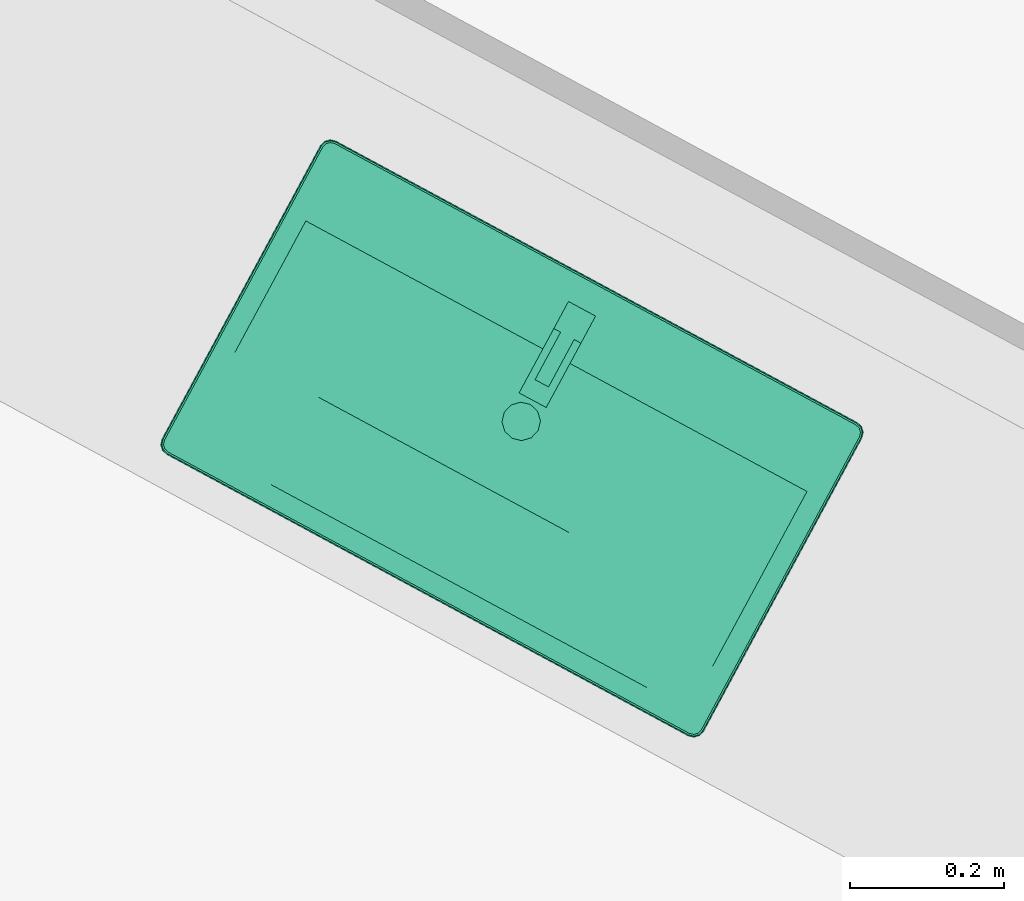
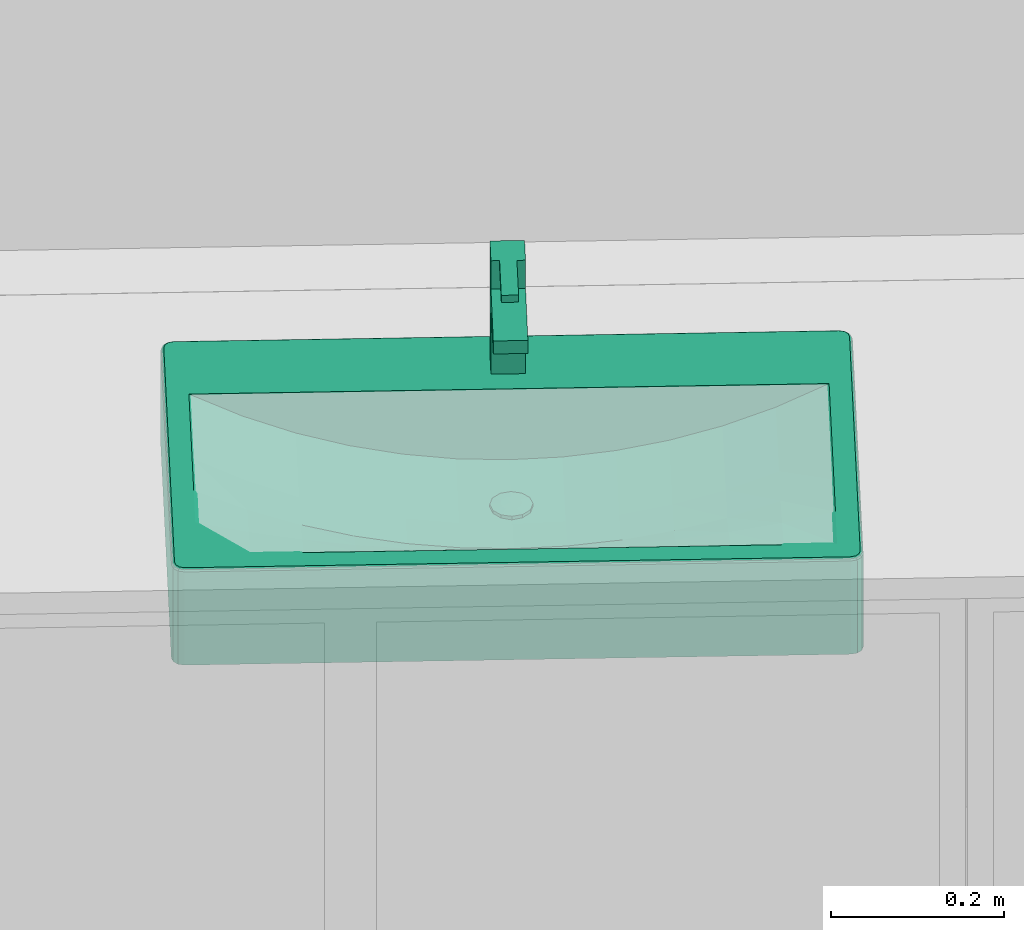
# One storey, part 18 of 41: 1 flow terminal.
"""IFC2X3 building model written with IfcOpenShell, lengths in metres."""

from ifc_helpers import new_model, entity, si_unit, converted_unit, derived_unit, money_unit, direction, frame, origin_with_axes, place, context, subcontext, project, spatial, open_shell, faceted_brep, surface_model, type_object, element, save


model = new_model("IFC2X3")

# Units and contexts
model_context = context("Model", 3, precision=1e-05, world=origin_with_axes(), true_north=direction((0.0, 1.0)))
body_context = subcontext(model_context, "Body", "Model", "MODEL_VIEW")
ifc_project = project(units=[si_unit("LENGTHUNIT", "METRE"), si_unit("AREAUNIT", "SQUARE_METRE"), si_unit("VOLUMEUNIT", "CUBIC_METRE"), converted_unit("PLANEANGLEUNIT", "DEGREE", entity("IfcPlaneAngleMeasure", 0.0174532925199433), si_unit("PLANEANGLEUNIT", "RADIAN"), dimensions=[0, 0, 0, 0, 0, 0, 0]), money_unit("EUR"), converted_unit("TIMEUNIT", "Year", entity("IfcTimeMeasure", 31556926.0), si_unit("TIMEUNIT", "SECOND"), dimensions=[0, 0, 1, 0, 0, 0, 0]), si_unit("MASSUNIT", "GRAM", prefix="KILO"), si_unit("THERMODYNAMICTEMPERATUREUNIT", "DEGREE_CELSIUS"), si_unit("LUMINOUSINTENSITYUNIT", "LUMEN"), si_unit("ENERGYUNIT", "JOULE", prefix="MEGA"), derived_unit("THERMALCONDUCTANCEUNIT", [(si_unit("POWERUNIT", "WATT"), 1), (si_unit("LENGTHUNIT", "METRE"), -1), (si_unit("THERMODYNAMICTEMPERATUREUNIT", "KELVIN"), -1)]), derived_unit("SPECIFICHEATCAPACITYUNIT", [(si_unit("ENERGYUNIT", "JOULE"), 1), (si_unit("MASSUNIT", "GRAM", prefix="KILO"), -1), (si_unit("THERMODYNAMICTEMPERATUREUNIT", "KELVIN"), -1)]), derived_unit("MASSDENSITYUNIT", [(si_unit("MASSUNIT", "GRAM", prefix="KILO"), 1), (si_unit("VOLUMEUNIT", "CUBIC_METRE"), -1)])], contexts=[model_context])

# Site, building, storey
site_placement = place(None, frame((-3.949935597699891, 1.740105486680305, 0.0), z_axis=(0.0, 0.0, 1.0), x_axis=(0.8799804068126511, -0.475009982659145, 0.0)))
site = spatial("IfcSite", under=ifc_project, at=site_placement, Name="Gelände", CompositionType="ELEMENT")
building_placement = place(site_placement, origin_with_axes())
building = spatial("IfcBuilding", under=site, at=building_placement, Name="Gebäude", CompositionType="ELEMENT")
storey_placement = place(building_placement, frame((0.0, 0.0, 4.55), z_axis=(0.0, 0.0, 1.0), x_axis=(1.0, 0.0, 0.0)))
storey = spatial("IfcBuildingStorey", under=building, at=storey_placement, Name="Staffelgeschoss", CompositionType="ELEMENT", Elevation=4.55)

# Flow terminal
sanitary_terminal_type = type_object("IfcSanitaryTerminalType", Name="Waschbecken 1 22", PredefinedType="NOTDEFINED")
flow_terminal_placement = place(storey_placement, frame((22.421146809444, 4.431900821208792, 0.0), z_axis=(0.0, 0.0, 1.0), x_axis=(1.0, 0.0, 0.0)))
element("IfcFlowTerminal", 1, at=flow_terminal_placement, inside=storey, type_object=sanitary_terminal_type, Name="Objekt-0061", context=body_context, shape_type="SurfaceModel", body=[
    faceted_brep([(-0.385, -0.4629798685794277, 0.715), (-0.3925, -0.4609702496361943, 0.715), (-0.3979903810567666, -0.4554798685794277, 0.715), (-0.4, -0.4479798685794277, 0.715), (-0.4, -0.01500000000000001, 0.715), (-0.3979903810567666, -0.007500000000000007, 0.715), (-0.3925, -0.002009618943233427, 0.715), (-0.385, 0.0, 0.715), (0.385, 0.0, 0.715), (0.3925, -0.002009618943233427, 0.715), (0.3979903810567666, -0.007500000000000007, 0.715), (0.4, -0.01500000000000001, 0.715), (0.4, -0.4479798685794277, 0.715), (0.3979903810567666, -0.4554798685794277, 0.715), (0.3925, -0.4609702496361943, 0.715), (0.385, -0.4629798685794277, 0.715), (0.37, -0.4329798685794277, 0.715), (0.37, -0.11, 0.715), (-0.37, -0.11, 0.715), (-0.37, -0.4329798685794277, 0.715), (-0.3849999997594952, -0.4629798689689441, 0.845), (-0.3925000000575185, -0.4609702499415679, 0.845), (-0.3979903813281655, -0.4554798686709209, 0.845), (-0.4000000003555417, -0.4479798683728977, 0.845), (-0.4000000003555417, -0.01499999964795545, 0.845), (-0.3979903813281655, -0.007500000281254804, 0.845), (-0.3925000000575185, -0.002009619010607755, 0.845), (-0.3849999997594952, 0.0, 0.845), (0.3849999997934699, 0.0, 0.845), (0.3925000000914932, -0.002009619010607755, 0.845), (0.3979903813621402, -0.007500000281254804, 0.845), (0.4000000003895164, -0.01499999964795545, 0.845), (0.4000000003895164, -0.4479798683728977, 0.845), (0.3979903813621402, -0.4554798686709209, 0.845), (0.3925000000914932, -0.4609702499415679, 0.845), (0.3849999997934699, -0.4629798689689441, 0.845), (0.37, -0.11, 0.84999999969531), (0.37, -0.4329798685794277, 0.84999999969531), (-0.37, -0.11, 0.84999999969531), (-0.37, -0.4329798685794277, 0.84999999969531), (-0.3849775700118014, -0.4628094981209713, 0.8462940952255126), (-0.3924118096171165, -0.4608174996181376, 0.8462940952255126), (-0.3978376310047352, -0.4553916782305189, 0.8462940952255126), (-0.3998296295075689, -0.4479574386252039, 0.8462940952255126), (-0.3998296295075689, -0.01502242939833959, 0.8462940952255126), (-0.3978376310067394, -0.007588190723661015, 0.8462940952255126), (-0.3924118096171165, -0.002162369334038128, 0.8462940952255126), (-0.3849775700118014, -0.0001703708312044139, 0.8462940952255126), (0.3849775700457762, -0.0001703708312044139, 0.8462940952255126), (0.3924118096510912, -0.002162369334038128, 0.8462940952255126), (0.3978376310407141, -0.007588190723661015, 0.8462940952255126), (0.3998296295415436, -0.01502242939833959, 0.8462940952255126), (0.3998296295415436, -0.4479574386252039, 0.8462940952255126), (0.3978376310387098, -0.4553916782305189, 0.8462940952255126), (0.3924118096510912, -0.4608174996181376, 0.8462940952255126), (0.3849775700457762, -0.4628094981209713, 0.8462940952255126), (0.3843417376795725, -0.004999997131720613, 0.84999999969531), (-0.3843417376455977, -0.004999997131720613, 0.84999999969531), (-0.3899118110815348, -0.006492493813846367, 0.84999999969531), (-0.3935075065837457, -0.01008818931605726, 0.84999999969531), (-0.3950000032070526, -0.01565826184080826, 0.84999999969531), (-0.3950000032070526, -0.4473216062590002, 0.84999999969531), (-0.3935075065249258, -0.4528916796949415, 0.84999999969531), (-0.3899118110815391, -0.4564873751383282, 0.84999999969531), (-0.3843417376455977, -0.4579798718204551, 0.84999999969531), (0.3843417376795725, -0.4579798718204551, 0.84999999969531), (0.3899118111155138, -0.4564873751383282, 0.84999999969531), (0.3935075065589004, -0.4528916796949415, 0.84999999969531), (0.3950000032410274, -0.4473216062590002, 0.84999999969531), (0.3950000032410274, -0.01565826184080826, 0.84999999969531), (0.3935075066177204, -0.01008818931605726, 0.84999999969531), (0.3899118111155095, -0.006492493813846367, 0.84999999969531), (-0.3848071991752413, -0.4615154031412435, 0.8485355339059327), (-0.3917419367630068, -0.4596572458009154, 0.8485355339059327), (-0.396677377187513, -0.4547218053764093, 0.8485355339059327), (-0.398535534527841, -0.4477870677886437, 0.8485355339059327), (-0.398535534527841, -0.01519280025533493, 0.8485355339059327), (-0.3966773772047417, -0.00825806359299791, 0.8485355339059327), (-0.391741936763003, -0.003322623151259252, 0.8485355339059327), (-0.3848071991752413, -0.001464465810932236, 0.8485355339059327), (0.384807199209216, -0.001464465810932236, 0.8485355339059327), (0.3917419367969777, -0.003322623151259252, 0.8485355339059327), (0.3966773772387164, -0.00825806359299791, 0.8485355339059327), (0.3985355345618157, -0.01519280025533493, 0.8485355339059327), (0.3985355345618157, -0.4477870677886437, 0.8485355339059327), (0.3966773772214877, -0.4547218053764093, 0.8485355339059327), (0.3917419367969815, -0.4596572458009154, 0.8485355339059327), (0.384807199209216, -0.4615154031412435, 0.8485355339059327), (0.3845121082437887, -0.003705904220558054, 0.8498296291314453), (-0.3845121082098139, -0.003705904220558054, 0.8498296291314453), (-0.3905816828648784, -0.005332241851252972, 0.8498296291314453), (-0.3946677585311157, -0.009418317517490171, 0.8498296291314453), (-0.3962940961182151, -0.01548789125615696, 0.8498296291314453), (-0.3962940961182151, -0.4474919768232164, 0.8498296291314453), (-0.3946677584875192, -0.453561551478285, 0.8498296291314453), (-0.3905816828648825, -0.4576476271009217, 0.8498296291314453), (-0.3845121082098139, -0.4592739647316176, 0.8498296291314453), (0.3845121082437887, -0.4592739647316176, 0.8498296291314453), (0.3905816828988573, -0.4576476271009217, 0.8498296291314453), (0.3946677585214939, -0.453561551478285, 0.8498296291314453), (0.3962940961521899, -0.4474919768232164, 0.8498296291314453), (0.3962940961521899, -0.01548789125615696, 0.8498296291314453), (0.3946677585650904, -0.009418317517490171, 0.8498296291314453), (0.3905816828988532, -0.005332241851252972, 0.8498296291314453)], [[[0, 1, 2, 3, 4, 5, 6, 7, 8, 9, 10, 11, 12, 13, 14, 15], [16, 17, 18, 19]], [[1, 0, 20, 21]], [[2, 1, 21, 22]], [[3, 2, 22, 23]], [[4, 3, 23, 24]], [[5, 4, 24, 25]], [[6, 5, 25, 26]], [[7, 6, 26, 27]], [[8, 7, 27, 28]], [[9, 8, 28, 29]], [[10, 9, 29, 30]], [[11, 10, 30, 31]], [[12, 11, 31, 32]], [[13, 12, 32, 33]], [[14, 13, 33, 34]], [[15, 14, 34, 35]], [[0, 15, 35, 20]], [[36, 17, 16, 37]], [[38, 18, 17, 36]], [[39, 19, 18, 38]], [[37, 16, 19, 39]], [[21, 20, 40, 41]], [[22, 21, 41, 42]], [[23, 22, 42, 43]], [[24, 23, 43, 44]], [[25, 24, 44, 45]], [[26, 25, 45, 46]], [[27, 26, 46, 47]], [[28, 27, 47, 48]], [[29, 28, 48, 49]], [[30, 29, 49, 50]], [[31, 30, 50, 51]], [[32, 31, 51, 52]], [[33, 32, 52, 53]], [[34, 33, 53, 54]], [[35, 34, 54, 55]], [[20, 35, 55, 40]], [[56, 57, 58, 59, 60, 61, 62, 63, 64, 65, 66, 67, 68, 69, 70, 71], [37, 39, 38, 36]], [[41, 40, 72, 73]], [[42, 41, 73, 74]], [[43, 42, 74, 75]], [[44, 43, 75, 76]], [[45, 44, 76, 77]], [[46, 45, 77, 78]], [[47, 46, 78, 79]], [[48, 47, 79, 80]], [[49, 48, 80, 81]], [[50, 49, 81, 82]], [[51, 50, 82, 83]], [[52, 51, 83, 84]], [[53, 52, 84, 85]], [[54, 53, 85, 86]], [[55, 54, 86, 87]], [[40, 55, 87, 72]], [[88, 89, 57, 56]], [[89, 90, 58, 57]], [[90, 91, 59, 58]], [[91, 92, 60, 59]], [[92, 93, 61, 60]], [[93, 94, 62, 61]], [[94, 95, 63, 62]], [[95, 96, 64, 63]], [[96, 97, 65, 64]], [[97, 98, 66, 65]], [[98, 99, 67, 66]], [[99, 100, 68, 67]], [[100, 101, 69, 68]], [[101, 102, 70, 69]], [[102, 103, 71, 70]], [[103, 88, 56, 71]], [[73, 72, 96, 95]], [[74, 73, 95, 94]], [[75, 74, 94, 93]], [[76, 75, 93, 92]], [[77, 76, 92, 91]], [[78, 77, 91, 90]], [[79, 78, 90, 89]], [[80, 79, 89, 88]], [[81, 80, 88, 103]], [[82, 81, 103, 102]], [[83, 82, 102, 101]], [[84, 83, 101, 100]], [[85, 84, 100, 99]], [[86, 85, 99, 98]], [[87, 86, 98, 97]], [[72, 87, 97, 96]]]),
    faceted_brep([(0.37, -0.4329798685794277, 0.715), (-0.37, -0.4329798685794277, 0.715), (-0.37, -0.11, 0.715), (0.37, -0.11, 0.715), (-0.01249999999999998, -0.2279082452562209, 0.715), (0.0, -0.2312576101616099, 0.715), (0.01250000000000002, -0.2279082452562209, 0.715), (0.02165063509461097, -0.2187576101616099, 0.715), (0.025, -0.2062576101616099, 0.715), (0.02165063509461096, -0.1937576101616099, 0.715), (0.01249999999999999, -0.184606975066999, 0.715), (0.0, -0.18125761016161, 0.715), (-0.01250000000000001, -0.184606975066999, 0.715), (-0.02165063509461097, -0.1937576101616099, 0.715), (-0.025, -0.20625761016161, 0.715), (-0.02165063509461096, -0.21875761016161, 0.715), (0.185, -0.4329798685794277, 0.85), (0.1233333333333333, -0.4329798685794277, 0.85), (0.06166666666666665, -0.4329798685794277, 0.85), (0.0, -0.4329798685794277, 0.85), (-0.0616666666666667, -0.4329798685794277, 0.85), (-0.1233333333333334, -0.4329798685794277, 0.85), (-0.1850000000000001, -0.4329798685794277, 0.85), (-0.2466666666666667, -0.4329798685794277, 0.85), (-0.3083333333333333, -0.4329798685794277, 0.85), (-0.37, -0.4329798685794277, 0.85), (0.37, -0.4329798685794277, 0.85), (0.3083333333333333, -0.4329798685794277, 0.85), (0.2466666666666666, -0.4329798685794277, 0.85), (-0.37, -0.2391919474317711, 0.8499999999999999), (-0.37, -0.1745959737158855, 0.8499999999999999), (-0.37, -0.11, 0.8499999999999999), (-0.37, -0.3683838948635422, 0.85), (-0.37, -0.3037879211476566, 0.8499999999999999), (-0.1850000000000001, -0.11, 0.7736798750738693), (-0.1233333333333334, -0.11, 0.7604287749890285), (-0.0616666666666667, -0.11, 0.7525932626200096), (0.0, -0.11, 0.75), (0.06166666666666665, -0.11, 0.7525932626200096), (0.1233333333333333, -0.11, 0.7604287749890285), (0.185, -0.11, 0.7736798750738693), (0.2466666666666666, -0.11, 0.7926576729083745), (0.3083333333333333, -0.11, 0.8178510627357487), (0.37, -0.11, 0.85), (-0.3083333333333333, -0.11, 0.8178510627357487), (-0.2466666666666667, -0.11, 0.7926576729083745), (0.37, -0.3037879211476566, 0.85), (0.37, -0.3683838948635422, 0.85), (0.37, -0.1745959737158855, 0.85), (0.37, -0.2391919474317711, 0.85), (0.0, -0.2312576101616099, 0.75), (-0.01249999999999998, -0.2279082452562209, 0.7505256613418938), (0.01250000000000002, -0.2279082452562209, 0.7505256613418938), (0.02165063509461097, -0.2187576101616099, 0.7509104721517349), (0.025, -0.2062576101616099, 0.7510513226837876), (0.02165063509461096, -0.1937576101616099, 0.7509104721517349), (0.01249999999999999, -0.184606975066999, 0.7505256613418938), (0.0, -0.18125761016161, 0.75), (-0.01250000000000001, -0.184606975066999, 0.7505256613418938), (-0.02165063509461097, -0.1937576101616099, 0.7509104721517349), (-0.025, -0.20625761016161, 0.7510513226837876), (-0.02165063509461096, -0.21875761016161, 0.7509104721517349), (0.1233333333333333, -0.3683838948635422, 0.8078267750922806), (0.06166666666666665, -0.3683838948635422, 0.8039351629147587), (0.0, -0.3683838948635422, 0.8026402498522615), (-0.0616666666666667, -0.3683838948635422, 0.8039351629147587), (-0.1233333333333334, -0.3683838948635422, 0.8078267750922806), (-0.1850000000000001, -0.3683838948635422, 0.814335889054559), (-0.2466666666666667, -0.3683838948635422, 0.8234977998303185), (-0.3083333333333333, -0.3683838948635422, 0.8353632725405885), (0.3083333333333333, -0.3683838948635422, 0.8353632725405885), (0.2466666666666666, -0.3683838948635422, 0.8234977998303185), (0.185, -0.3683838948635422, 0.814335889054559), (-0.3083333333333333, -0.2391919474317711, 0.8178510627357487), (-0.3083333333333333, -0.1745959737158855, 0.8178510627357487), (-0.3083333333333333, -0.3037879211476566, 0.8214477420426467), (-0.1850000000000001, -0.1745959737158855, 0.7736798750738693), (-0.1233333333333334, -0.1745959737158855, 0.7604287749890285), (-0.0616666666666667, -0.1745959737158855, 0.7525932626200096), (0.0, -0.1745959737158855, 0.75), (0.06166666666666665, -0.1745959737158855, 0.7525932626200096), (0.1233333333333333, -0.1745959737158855, 0.7604287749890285), (0.185, -0.1745959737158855, 0.7736798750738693), (0.2466666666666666, -0.1745959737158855, 0.7926576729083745), (0.3083333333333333, -0.1745959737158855, 0.8178510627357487), (-0.2466666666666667, -0.1745959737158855, 0.7926576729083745), (0.3083333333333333, -0.3037879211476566, 0.8214477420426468), (0.3083333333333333, -0.2391919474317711, 0.8178510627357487), (-0.0616666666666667, -0.2391919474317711, 0.7525932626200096), (0.0, -0.2391919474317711, 0.75), (0.06166666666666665, -0.2391919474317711, 0.7525932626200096), (-0.2466666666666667, -0.2391919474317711, 0.7926576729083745), (-0.1850000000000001, -0.2391919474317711, 0.7736798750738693), (-0.1233333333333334, -0.2391919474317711, 0.7604287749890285), (0.1233333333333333, -0.2391919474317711, 0.7604287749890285), (0.185, -0.2391919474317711, 0.7736798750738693), (0.2466666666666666, -0.2391919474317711, 0.7926576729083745), (0.0, -0.3037879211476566, 0.7603000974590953), (0.06166666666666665, -0.3037879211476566, 0.7626568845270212), (0.1233333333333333, -0.3037879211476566, 0.7697689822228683), (-0.0616666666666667, -0.3037879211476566, 0.7626568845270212), (-0.1233333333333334, -0.3037879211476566, 0.7697689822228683), (-0.1850000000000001, -0.3037879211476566, 0.7817653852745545), (-0.2466666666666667, -0.3037879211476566, 0.798874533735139), (0.2466666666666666, -0.3037879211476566, 0.7988745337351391), (0.185, -0.3037879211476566, 0.7817653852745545)], [[[0, 1, 2, 3], [4, 5, 6, 7, 8, 9, 10, 11, 12, 13, 14, 15]], [[16, 17, 18, 19, 20, 21, 22, 23, 24, 25, 1, 0, 26, 27, 28]], [[29, 30, 31, 2, 1, 25, 32, 33]], [[34, 35, 36, 37, 38, 39, 40, 41, 42, 43, 3, 2, 31, 44, 45]], [[46, 47, 26, 0, 3, 43, 48, 49]], [[50, 5, 4, 51]], [[52, 6, 5, 50]], [[53, 7, 6, 52]], [[54, 8, 7, 53]], [[55, 9, 8, 54]], [[56, 10, 9, 55]], [[57, 11, 10, 56]], [[58, 12, 11, 57]], [[59, 13, 12, 58]], [[60, 14, 13, 59]], [[61, 15, 14, 60]], [[51, 4, 15, 61]], [[16, 62, 17]], [[17, 63, 18]], [[18, 64, 19]], [[19, 65, 20]], [[20, 66, 21]], [[21, 67, 22]], [[22, 68, 23]], [[23, 69, 24]], [[24, 32, 25]], [[26, 70, 27]], [[27, 71, 28]], [[28, 72, 16]], [[29, 73, 74, 30]], [[30, 74, 44, 31]], [[69, 33, 32]], [[75, 29, 33]], [[76, 77, 35, 34]], [[77, 78, 36, 35]], [[78, 79, 37, 36]], [[79, 80, 38, 37]], [[80, 81, 39, 38]], [[81, 82, 40, 39]], [[82, 83, 41, 40]], [[83, 84, 42, 41]], [[84, 48, 43, 42]], [[74, 85, 45, 44]], [[85, 76, 34, 45]], [[47, 46, 86]], [[26, 47, 70]], [[87, 49, 48, 84]], [[46, 49, 87]], [[58, 57, 79, 78, 88, 89, 50, 51, 61, 60, 59]], [[56, 55, 54, 53, 52, 50, 89, 90, 80, 79, 57]], [[16, 72, 62]], [[17, 62, 63]], [[18, 63, 64]], [[19, 64, 65]], [[20, 65, 66]], [[21, 66, 67]], [[22, 67, 68]], [[23, 68, 69]], [[24, 69, 32]], [[27, 70, 71]], [[28, 71, 72]], [[75, 73, 29]], [[73, 91, 85, 74]], [[69, 75, 33]], [[92, 93, 77, 76]], [[93, 88, 78, 77]], [[90, 94, 81, 80]], [[94, 95, 82, 81]], [[95, 96, 83, 82]], [[96, 87, 84, 83]], [[91, 92, 76, 85]], [[46, 87, 86]], [[47, 86, 70]], [[97, 89, 88]], [[98, 90, 89]], [[72, 99, 62]], [[62, 98, 63]], [[63, 97, 64]], [[64, 100, 65]], [[65, 101, 66]], [[66, 102, 67]], [[67, 103, 68]], [[68, 75, 69]], [[70, 104, 71]], [[71, 105, 72]], [[103, 73, 75]], [[103, 91, 73]], [[101, 93, 92]], [[100, 88, 93]], [[99, 94, 90]], [[105, 95, 94]], [[104, 96, 95]], [[86, 87, 96]], [[102, 92, 91]], [[70, 86, 104]], [[98, 89, 97]], [[97, 88, 100]], [[99, 90, 98]], [[72, 105, 99]], [[62, 99, 98]], [[63, 98, 97]], [[64, 97, 100]], [[65, 100, 101]], [[66, 101, 102]], [[67, 102, 103]], [[68, 103, 75]], [[71, 104, 105]], [[102, 91, 103]], [[100, 93, 101]], [[101, 92, 102]], [[105, 94, 99]], [[104, 95, 105]], [[86, 96, 104]]]),
    faceted_brep([(-0.02165063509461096, -0.21875761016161, 0.75), (-0.025, -0.20625761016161, 0.75), (-0.02165063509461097, -0.1937576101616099, 0.75), (-0.01250000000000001, -0.184606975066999, 0.75), (0.0, -0.18125761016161, 0.75), (0.01249999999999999, -0.184606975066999, 0.75), (0.02165063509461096, -0.1937576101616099, 0.75), (0.025, -0.2062576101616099, 0.75), (0.02165063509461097, -0.2187576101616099, 0.75), (0.01250000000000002, -0.2279082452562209, 0.75), (0.0, -0.2312576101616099, 0.75), (-0.01249999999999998, -0.2279082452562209, 0.75), (-0.02165063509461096, -0.21875761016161, 0.755), (-0.025, -0.20625761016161, 0.755), (-0.02165063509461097, -0.1937576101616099, 0.755), (-0.01250000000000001, -0.184606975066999, 0.755), (0.0, -0.18125761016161, 0.755), (0.01249999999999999, -0.184606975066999, 0.755), (0.02165063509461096, -0.1937576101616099, 0.755), (0.025, -0.2062576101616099, 0.755), (0.02165063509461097, -0.2187576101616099, 0.755), (0.01250000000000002, -0.2279082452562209, 0.755), (0.0, -0.2312576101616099, 0.755), (-0.01249999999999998, -0.2279082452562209, 0.755)], [[[0, 1, 2, 3, 4, 5, 6, 7, 8, 9, 10, 11]], [[0, 12, 13, 1]], [[1, 13, 14, 2]], [[2, 14, 15, 3]], [[3, 15, 16, 4]], [[4, 16, 17, 5]], [[5, 17, 18, 6]], [[6, 18, 19, 7]], [[7, 19, 20, 8]], [[8, 20, 21, 9]], [[9, 21, 22, 10]], [[10, 22, 23, 11]], [[11, 23, 12, 0]], [[12, 23, 22, 21, 20, 19, 18, 17, 16, 15, 14, 13]]]),
    surface_model("IfcShellBasedSurfaceModel", [(0.0, -0.20625761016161, 0.757), (0.006310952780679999, -0.1953267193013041, 0.7564975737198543), (0.0, -0.19363570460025, 0.7564975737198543), (0.01093089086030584, -0.19994665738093, 0.7564975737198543), (0.0125, -0.184606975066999, 0.755), (0.0, -0.18125761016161, 0.755), (-0.006310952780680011, -0.1953267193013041, 0.7564975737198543), (0.01262190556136, -0.20625761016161, 0.7564975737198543), (0.02165063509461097, -0.1937576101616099, 0.755), (-0.01250000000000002, -0.184606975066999, 0.755), (-0.01093089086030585, -0.19994665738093, 0.7564975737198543), (0.01093089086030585, -0.21256856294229, 0.7564975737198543), (0.025, -0.20625761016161, 0.755), (-0.02165063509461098, -0.19375761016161, 0.755), (-0.01262190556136, -0.20625761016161, 0.7564975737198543), (0.006310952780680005, -0.2171885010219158, 0.7564975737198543), (0.02165063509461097, -0.2187576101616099, 0.755), (-0.025, -0.20625761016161, 0.755), (-0.01093089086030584, -0.21256856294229, 0.7564975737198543), (0.0, -0.21887951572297, 0.7564975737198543), (0.01250000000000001, -0.2279082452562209, 0.755), (-0.02165063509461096, -0.21875761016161, 0.755), (-0.006310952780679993, -0.2171885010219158, 0.7564975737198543), (0.0, -0.2312576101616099, 0.755), (-0.01249999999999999, -0.2279082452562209, 0.755)], [open_shell([[[0, 1, 2]], [[0, 3, 1]], [[1, 4, 5, 2]], [[0, 2, 6]], [[0, 7, 3]], [[3, 8, 4, 1]], [[2, 5, 9, 6]], [[0, 6, 10]], [[0, 11, 7]], [[7, 12, 8, 3]], [[6, 9, 13, 10]], [[0, 10, 14]], [[0, 15, 11]], [[11, 16, 12, 7]], [[10, 13, 17, 14]], [[0, 14, 18]], [[0, 19, 15]], [[15, 20, 16, 11]], [[14, 17, 21, 18]], [[0, 18, 22]], [[0, 22, 19]], [[19, 23, 20, 15]], [[18, 21, 24, 22]], [[22, 24, 23, 19]]])]),
    faceted_brep([(-0.02, -0.03999999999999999, 0.85), (0.02, -0.04, 0.85), (0.02, -0.08, 0.85), (-0.02, -0.08, 0.85), (-0.02000000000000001, -0.03999999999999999, 0.97), (0.01999999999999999, -0.04, 0.97), (0.01999999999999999, -0.08, 0.97), (0.01999999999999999, -0.175, 0.9633569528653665), (0.01999999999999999, -0.175, 0.945), (0.01999999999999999, -0.08, 0.945), (-0.02000000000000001, -0.08, 0.945), (-0.02000000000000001, -0.175, 0.945), (-0.02000000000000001, -0.175, 0.9633569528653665), (-0.02000000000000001, -0.08, 0.97)], [[[0, 1, 2, 3]], [[4, 5, 1, 0]], [[1, 5, 6, 7, 8, 9, 2]], [[3, 2, 9, 10]], [[0, 3, 10, 11, 12, 13, 4]], [[13, 6, 5, 4]], [[12, 7, 6, 13]], [[11, 8, 7, 12]], [[10, 9, 8, 11]]]),
    faceted_brep([(-0.02, -0.03999999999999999, 0.97), (0.02, -0.04, 0.97), (0.02, -0.08, 0.97), (-0.02, -0.08, 0.97), (-0.02, -0.03999999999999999, 1.01), (0.02, -0.04, 1.01), (0.01999999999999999, -0.08, 1.01), (-0.02, -0.08, 1.01)], [[[0, 1, 2, 3]], [[4, 5, 1, 0]], [[1, 5, 6, 2]], [[3, 2, 6, 7]], [[0, 3, 7, 4]], [[7, 6, 5, 4]]]),
    faceted_brep([(-0.01, -0.08, 1.0), (0.009999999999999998, -0.08, 1.0), (0.009999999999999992, -0.15, 1.0), (-0.01000000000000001, -0.15, 1.0), (-0.01, -0.08, 1.01), (0.009999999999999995, -0.08, 1.01), (0.009999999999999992, -0.15, 1.01), (-0.01000000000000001, -0.15, 1.01)], [[[0, 1, 2, 3]], [[4, 5, 1, 0]], [[1, 5, 6, 2]], [[3, 2, 6, 7]], [[0, 3, 7, 4]], [[7, 6, 5, 4]]]),
])

save(model, "model.ifc")
